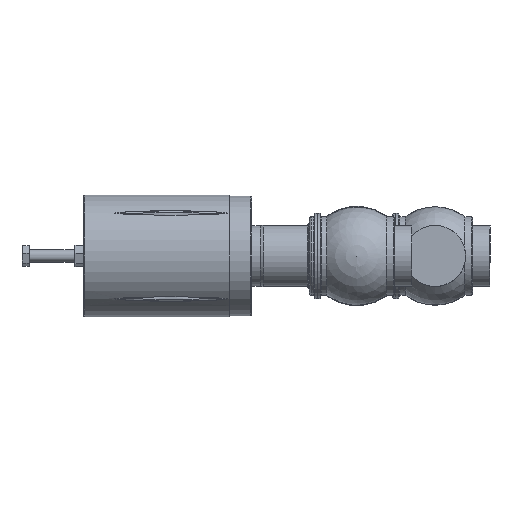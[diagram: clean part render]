
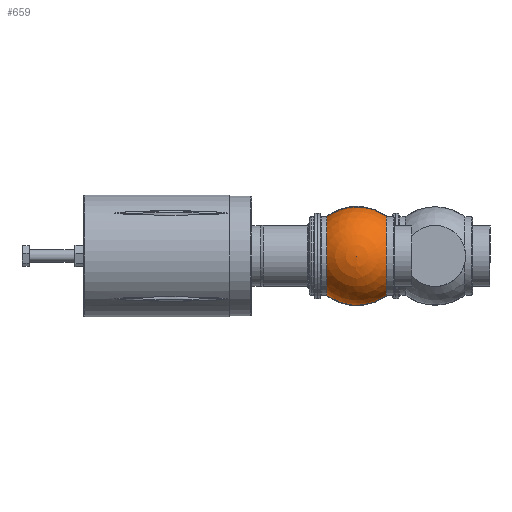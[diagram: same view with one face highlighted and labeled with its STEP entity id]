
A CAD part, left-side view. The second image highlights one B-rep face of the part: STEP entity #659.
In plain terms, the highlighted spherical face has radius 56.5 mm.
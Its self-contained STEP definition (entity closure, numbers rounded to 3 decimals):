
#465=CARTESIAN_POINT('',(7.599,28.835,44.354));
#466=VERTEX_POINT('',#465);
#467=CARTESIAN_POINT('',(-7.599,28.835,44.354));
#468=VERTEX_POINT('',#467);
#482=CARTESIAN_POINT('',(7.599,97.165,44.354));
#483=VERTEX_POINT('',#482);
#484=CARTESIAN_POINT('',(0.0,63.,44.354));
#485=DIRECTION('',(0.0,0.0,-1.0));
#486=DIRECTION('',(-1.0,0.0,0.0));
#487=AXIS2_PLACEMENT_3D('',#484,#485,#486);
#488=CIRCLE('',#487,35.0);
#489=EDGE_CURVE('',#483,#466,#488,.T.);
#491=CARTESIAN_POINT('',(-7.599,97.165,44.354));
#492=VERTEX_POINT('',#491);
#506=CARTESIAN_POINT('',(0.0,63.,44.354));
#507=DIRECTION('',(0.0,0.0,-1.0));
#508=DIRECTION('',(-1.0,0.0,0.0));
#509=AXIS2_PLACEMENT_3D('',#506,#507,#508);
#510=CIRCLE('',#509,35.0);
#511=EDGE_CURVE('',#468,#492,#510,.T.);
#531=CARTESIAN_POINT('',(0.0,97.165,0.0));
#532=DIRECTION('',(0.0,1.0,0.0));
#533=DIRECTION('',(-1.0,0.0,0.0));
#534=AXIS2_PLACEMENT_3D('',#531,#532,#533);
#535=CIRCLE('',#534,45.);
#536=EDGE_CURVE('',#483,#492,#535,.T.);
#635=CARTESIAN_POINT('',(0.0,28.835,0.0));
#636=DIRECTION('',(0.0,1.0,0.0));
#637=DIRECTION('',(-1.0,0.0,0.0));
#638=AXIS2_PLACEMENT_3D('',#635,#636,#637);
#639=CIRCLE('',#638,45.);
#640=EDGE_CURVE('',#466,#468,#639,.T.);
#648=CARTESIAN_POINT('',(0.,63.,0.0));
#649=DIRECTION('',(0.0,0.0,1.0));
#650=DIRECTION('',(1.0,0.0,0.0));
#651=AXIS2_PLACEMENT_3D('',#648,#649,#650);
#652=SPHERICAL_SURFACE('',#651,56.5);
#653=ORIENTED_EDGE('',*,*,#511,.T.);
#654=ORIENTED_EDGE('',*,*,#536,.F.);
#655=ORIENTED_EDGE('',*,*,#489,.T.);
#656=ORIENTED_EDGE('',*,*,#640,.T.);
#657=EDGE_LOOP('',(#653,#654,#655,#656));
#658=FACE_OUTER_BOUND('',#657,.T.);
#659=ADVANCED_FACE('',(#658),#652,.T.);
